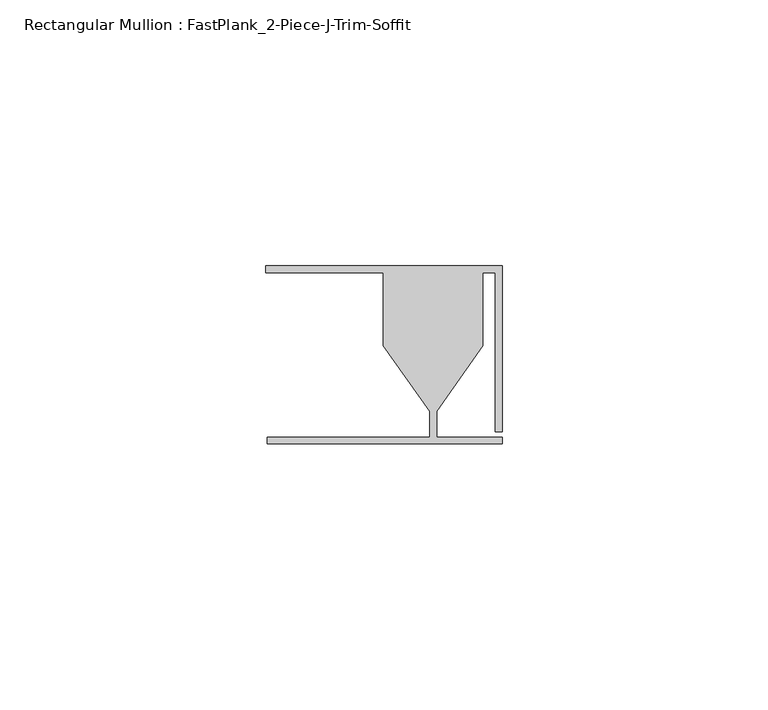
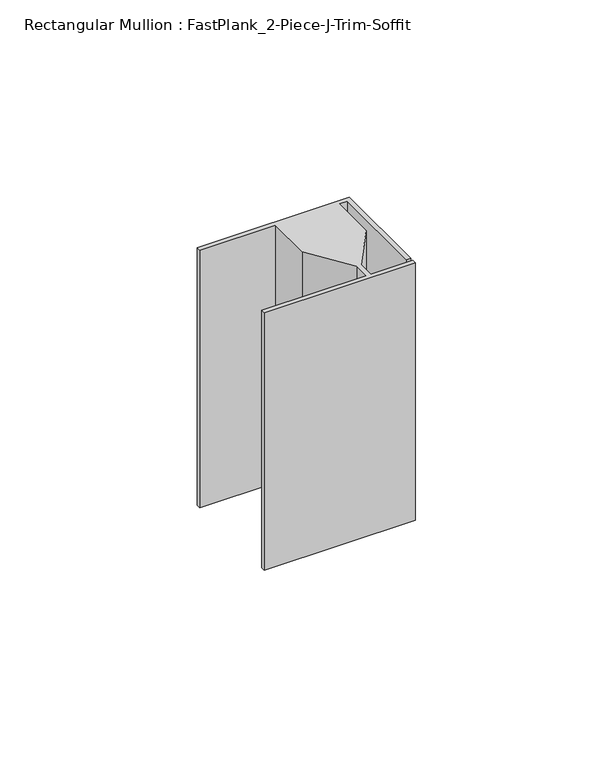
"""IFC4 building model written with IfcOpenShell, lengths in millimetres: member geometry, Rectangular Mullion : FastPlank_2-Piece-J-Trim-Soffit."""

from ifc_helpers import new_model, si_unit, frame, origin, place, context, project, spatial, polyline, outline, extrude, source, transform, mapped, element, save


def rectangular_mullion_fastplank_2_piece_j_trim_soffit_34017da6(model_context):
    return source(origin(), model_context, "Body", "SweptSolid", [
        extrude(outline(polyline([(0.0, -24.0545052), (-44.2023711, -24.0545052), (-44.2023711, -22.7538154), (-13.6176438, -22.7538154), (-13.6176438, -17.8958113), (-22.3299553, -5.5376243), (-22.3299553, 8.1461228), (-44.4475015, 8.1461228), (-44.4475015, 9.4461202), (0.0, 9.4461202), (0.0, -21.7539969), (-1.2999974, -21.7539969), (-1.2999974, 8.1461228), (-3.6053348, 8.1461228), (-3.6053348, -5.5376243), (-12.3176464, -17.8958113), (-12.3176464, -22.7538154), (0.0, -22.7538154), (0.0, -24.0545052)])), frame((0.0, 0.0, -79.66369), z_axis=(0.0, 0.0, 1.0), x_axis=(1.0, 0.0, 0.0)), (0.0, 0.0, 1.0), 79.66369),
    ])


if __name__ == "__main__":
    model = new_model("IFC4")
    model_context = context("Model", 3, world=origin())
    ifc_project = project(units=[si_unit("LENGTHUNIT", "METRE", prefix="MILLI")], contexts=[model_context])
    site = spatial("IfcSite", under=ifc_project)
    building = spatial("IfcBuilding", under=site)
    placement = place(None, origin())
    rectangular_mullion_fastplank_2_piece_j_trim_soffit_shape = rectangular_mullion_fastplank_2_piece_j_trim_soffit_34017da6(model_context)
    element("IfcMember", 1, ObjectType="Rectangular Mullion : FastPlank_2-Piece-J-Trim-Soffit", at=placement, inside=building, context=model_context, shape_type="MappedRepresentation", body=[
        mapped(rectangular_mullion_fastplank_2_piece_j_trim_soffit_shape, transform((0.0, 0.0, 0.0), x_axis=(1.0, 0.0, 0.0), y_axis=(0.0, 1.0, 0.0), z_axis=(0.0, 0.0, 1.0))),
    ])
    save(model, "model.ifc")
